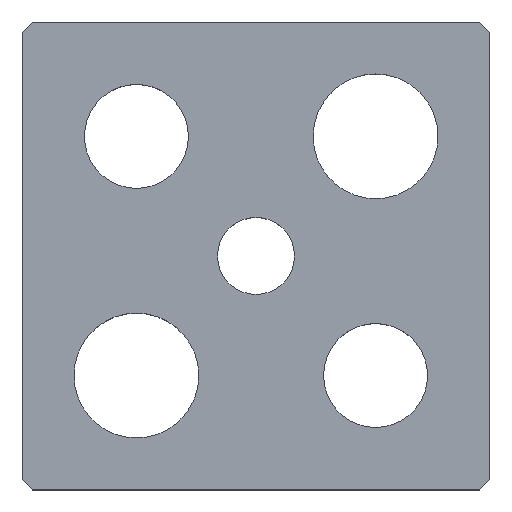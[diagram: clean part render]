
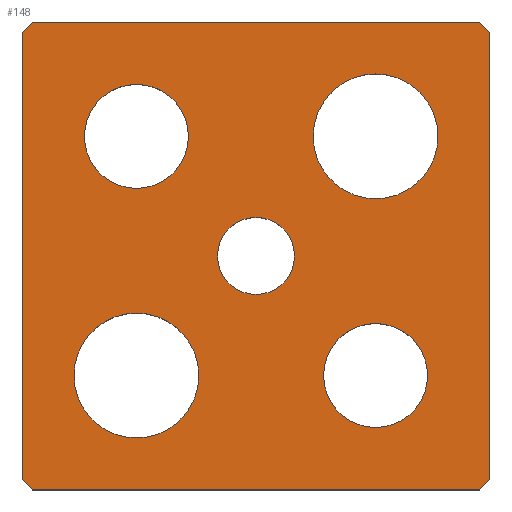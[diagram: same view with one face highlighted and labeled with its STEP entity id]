
A CAD part, top view. The second image highlights one B-rep face of the part: STEP entity #148.
In plain terms, the highlighted planar face has unit normal (0, 0, 1).
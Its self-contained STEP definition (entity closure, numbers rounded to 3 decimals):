
#117=CIRCLE('',#503,3.7);
#118=CIRCLE('',#504,3.7);
#119=CIRCLE('',#505,5.);
#120=CIRCLE('',#506,5.);
#121=CIRCLE('',#507,6.);
#122=CIRCLE('',#508,6.);
#123=CIRCLE('',#509,6.);
#124=CIRCLE('',#510,6.);
#125=CIRCLE('',#511,5.);
#126=CIRCLE('',#512,5.);
#133=FACE_BOUND('',#201,.T.);
#134=FACE_BOUND('',#202,.T.);
#135=FACE_BOUND('',#203,.T.);
#136=FACE_BOUND('',#204,.T.);
#137=FACE_BOUND('',#205,.T.);
#138=FACE_BOUND('',#206,.T.);
#148=ADVANCED_FACE('',(#133,#134,#135,#136,#137,#138),#168,.T.);
#168=PLANE('',#513);
#201=EDGE_LOOP('',(#267,#268,#269,#270,#271,#272,#273,#274));
#202=EDGE_LOOP('',(#275,#276));
#203=EDGE_LOOP('',(#277,#278));
#204=EDGE_LOOP('',(#279,#280));
#205=EDGE_LOOP('',(#281,#282));
#206=EDGE_LOOP('',(#283,#284));
#267=ORIENTED_EDGE('',*,*,#362,.T.);
#268=ORIENTED_EDGE('',*,*,#366,.T.);
#269=ORIENTED_EDGE('',*,*,#369,.T.);
#270=ORIENTED_EDGE('',*,*,#372,.T.);
#271=ORIENTED_EDGE('',*,*,#375,.T.);
#272=ORIENTED_EDGE('',*,*,#378,.T.);
#273=ORIENTED_EDGE('',*,*,#381,.T.);
#274=ORIENTED_EDGE('',*,*,#384,.T.);
#275=ORIENTED_EDGE('',*,*,#395,.T.);
#276=ORIENTED_EDGE('',*,*,#396,.T.);
#277=ORIENTED_EDGE('',*,*,#397,.T.);
#278=ORIENTED_EDGE('',*,*,#398,.T.);
#279=ORIENTED_EDGE('',*,*,#399,.T.);
#280=ORIENTED_EDGE('',*,*,#400,.T.);
#281=ORIENTED_EDGE('',*,*,#401,.T.);
#282=ORIENTED_EDGE('',*,*,#402,.T.);
#283=ORIENTED_EDGE('',*,*,#403,.T.);
#284=ORIENTED_EDGE('',*,*,#404,.T.);
#326=VERTEX_POINT('',#643);
#327=VERTEX_POINT('',#645);
#330=VERTEX_POINT('',#652);
#332=VERTEX_POINT('',#658);
#334=VERTEX_POINT('',#664);
#336=VERTEX_POINT('',#670);
#338=VERTEX_POINT('',#676);
#340=VERTEX_POINT('',#682);
#351=VERTEX_POINT('',#711);
#352=VERTEX_POINT('',#712);
#353=VERTEX_POINT('',#715);
#354=VERTEX_POINT('',#716);
#355=VERTEX_POINT('',#719);
#356=VERTEX_POINT('',#720);
#357=VERTEX_POINT('',#723);
#358=VERTEX_POINT('',#724);
#359=VERTEX_POINT('',#727);
#360=VERTEX_POINT('',#728);
#362=EDGE_CURVE('',#327,#326,#416,.T.);
#366=EDGE_CURVE('',#326,#330,#420,.T.);
#369=EDGE_CURVE('',#330,#332,#423,.T.);
#372=EDGE_CURVE('',#332,#334,#426,.T.);
#375=EDGE_CURVE('',#334,#336,#429,.T.);
#378=EDGE_CURVE('',#336,#338,#432,.T.);
#381=EDGE_CURVE('',#338,#340,#435,.T.);
#384=EDGE_CURVE('',#340,#327,#438,.T.);
#395=EDGE_CURVE('',#351,#352,#117,.T.);
#396=EDGE_CURVE('',#352,#351,#118,.T.);
#397=EDGE_CURVE('',#353,#354,#119,.T.);
#398=EDGE_CURVE('',#354,#353,#120,.T.);
#399=EDGE_CURVE('',#355,#356,#121,.T.);
#400=EDGE_CURVE('',#356,#355,#122,.T.);
#401=EDGE_CURVE('',#357,#358,#123,.T.);
#402=EDGE_CURVE('',#358,#357,#124,.T.);
#403=EDGE_CURVE('',#359,#360,#125,.T.);
#404=EDGE_CURVE('',#360,#359,#126,.T.);
#416=LINE('',#644,#450);
#420=LINE('',#653,#454);
#423=LINE('',#659,#457);
#426=LINE('',#665,#460);
#429=LINE('',#671,#463);
#432=LINE('',#677,#466);
#435=LINE('',#683,#469);
#438=LINE('',#687,#472);
#450=VECTOR('',#527,1.);
#454=VECTOR('',#533,1.);
#457=VECTOR('',#538,1.);
#460=VECTOR('',#543,1.);
#463=VECTOR('',#548,1.);
#466=VECTOR('',#553,1.);
#469=VECTOR('',#558,1.);
#472=VECTOR('',#563,1.);
#503=AXIS2_PLACEMENT_3D('',#710,#588,#589);
#504=AXIS2_PLACEMENT_3D('',#713,#590,#591);
#505=AXIS2_PLACEMENT_3D('',#714,#592,#593);
#506=AXIS2_PLACEMENT_3D('',#717,#594,#595);
#507=AXIS2_PLACEMENT_3D('',#718,#596,#597);
#508=AXIS2_PLACEMENT_3D('',#721,#598,#599);
#509=AXIS2_PLACEMENT_3D('',#722,#600,#601);
#510=AXIS2_PLACEMENT_3D('',#725,#602,#603);
#511=AXIS2_PLACEMENT_3D('',#726,#604,#605);
#512=AXIS2_PLACEMENT_3D('',#729,#606,#607);
#513=AXIS2_PLACEMENT_3D('',#730,#608,#609);
#527=DIRECTION('',(0.707,-0.707,0.));
#533=DIRECTION('',(1.,0.,0.));
#538=DIRECTION('',(0.707,0.707,0.));
#543=DIRECTION('',(0.,1.,0.));
#548=DIRECTION('',(-0.707,0.707,0.));
#553=DIRECTION('',(-1.,0.,0.));
#558=DIRECTION('',(-0.707,-0.707,0.));
#563=DIRECTION('',(0.,-1.,0.));
#588=DIRECTION('',(0.,0.,-1.));
#589=DIRECTION('',(-1.,0.,0.));
#590=DIRECTION('',(0.,0.,-1.));
#591=DIRECTION('',(1.,0.,0.));
#592=DIRECTION('',(0.,0.,-1.));
#593=DIRECTION('',(-1.,0.,0.));
#594=DIRECTION('',(0.,0.,-1.));
#595=DIRECTION('',(1.,0.,0.));
#596=DIRECTION('',(0.,0.,-1.));
#597=DIRECTION('',(-1.,0.,0.));
#598=DIRECTION('',(0.,0.,-1.));
#599=DIRECTION('',(1.,0.,0.));
#600=DIRECTION('',(0.,0.,-1.));
#601=DIRECTION('',(-1.,0.,0.));
#602=DIRECTION('',(0.,0.,-1.));
#603=DIRECTION('',(1.,0.,0.));
#604=DIRECTION('',(0.,0.,-1.));
#605=DIRECTION('',(-1.,0.,0.));
#606=DIRECTION('',(0.,0.,-1.));
#607=DIRECTION('',(1.,0.,0.));
#608=DIRECTION('',(0.,0.,1.));
#609=DIRECTION('',(0.,-1.,0.));
#643=CARTESIAN_POINT('',(-21.5,-22.5,5.));
#644=CARTESIAN_POINT('',(-22.5,-21.5,5.));
#645=CARTESIAN_POINT('',(-22.5,-21.5,5.));
#652=CARTESIAN_POINT('',(21.5,-22.5,5.));
#653=CARTESIAN_POINT('',(-21.5,-22.5,5.));
#658=CARTESIAN_POINT('',(22.5,-21.5,5.));
#659=CARTESIAN_POINT('',(22.5,-21.5,5.));
#664=CARTESIAN_POINT('',(22.5,21.5,5.));
#665=CARTESIAN_POINT('',(22.5,21.5,5.));
#670=CARTESIAN_POINT('',(21.5,22.5,5.));
#671=CARTESIAN_POINT('',(21.5,22.5,5.));
#676=CARTESIAN_POINT('',(-21.5,22.5,5.));
#677=CARTESIAN_POINT('',(-21.5,22.5,5.));
#682=CARTESIAN_POINT('',(-22.5,21.5,5.));
#683=CARTESIAN_POINT('',(-22.5,21.5,5.));
#687=CARTESIAN_POINT('',(-22.5,21.5,5.));
#710=CARTESIAN_POINT('',(0.,0.,5.));
#711=CARTESIAN_POINT('',(0.,3.7,5.));
#712=CARTESIAN_POINT('',(0.,-3.7,5.));
#713=CARTESIAN_POINT('',(0.,0.,5.));
#714=CARTESIAN_POINT('',(-11.5,11.5,5.));
#715=CARTESIAN_POINT('',(-11.5,16.5,5.));
#716=CARTESIAN_POINT('',(-11.5,6.5,5.));
#717=CARTESIAN_POINT('',(-11.5,11.5,5.));
#718=CARTESIAN_POINT('',(11.5,11.5,5.));
#719=CARTESIAN_POINT('',(11.5,17.5,5.));
#720=CARTESIAN_POINT('',(11.5,5.5,5.));
#721=CARTESIAN_POINT('',(11.5,11.5,5.));
#722=CARTESIAN_POINT('',(-11.5,-11.5,5.));
#723=CARTESIAN_POINT('',(-11.5,-5.5,5.));
#724=CARTESIAN_POINT('',(-11.5,-17.5,5.));
#725=CARTESIAN_POINT('',(-11.5,-11.5,5.));
#726=CARTESIAN_POINT('',(11.5,-11.5,5.));
#727=CARTESIAN_POINT('',(11.5,-6.5,5.));
#728=CARTESIAN_POINT('',(11.5,-16.5,5.));
#729=CARTESIAN_POINT('',(11.5,-11.5,5.));
#730=CARTESIAN_POINT('',(-22.5,-21.5,5.));
